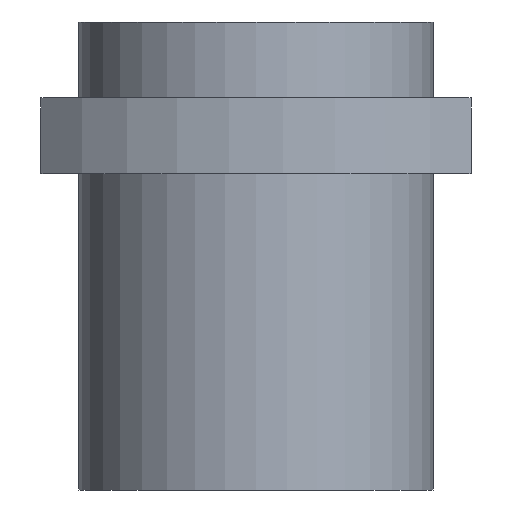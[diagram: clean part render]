
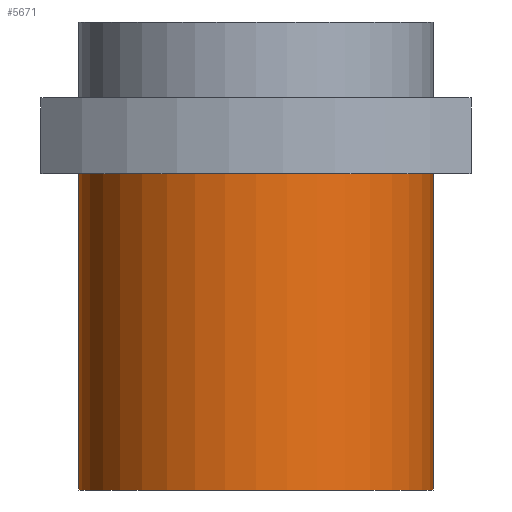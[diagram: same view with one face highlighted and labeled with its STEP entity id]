
A CAD part, left-side view. The second image highlights one B-rep face of the part: STEP entity #5671.
In plain terms, the highlighted cylindrical face has radius 14 mm (diameter 28 mm), a full revolution.
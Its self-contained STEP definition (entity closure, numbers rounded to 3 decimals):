
#83=CYLINDRICAL_SURFACE('',#6042,14.);
#113=CIRCLE('',#6029,14.);
#122=CIRCLE('',#6043,14.);
#1735=ORIENTED_EDGE('',*,*,#3367,.T.);
#1736=ORIENTED_EDGE('',*,*,#3356,.T.);
#3356=EDGE_CURVE('',#4172,#4172,#113,.F.);
#3367=EDGE_CURVE('',#4181,#4181,#122,.T.);
#4172=VERTEX_POINT('',#8978);
#4181=VERTEX_POINT('',#9003);
#4647=EDGE_LOOP('',(#1735));
#4648=EDGE_LOOP('',(#1736));
#5057=FACE_BOUND('',#4647,.T.);
#5058=FACE_BOUND('',#4648,.T.);
#5671=ADVANCED_FACE('',(#5057,#5058),#83,.T.);
#6029=AXIS2_PLACEMENT_3D('',#8977,#6553,#6554);
#6042=AXIS2_PLACEMENT_3D('',#9001,#6581,#6582);
#6043=AXIS2_PLACEMENT_3D('',#9002,#6583,#6584);
#6553=DIRECTION('',(0.,0.,1.));
#6554=DIRECTION('',(0.,1.,0.));
#6581=DIRECTION('',(0.,0.,1.));
#6582=DIRECTION('',(0.,1.,0.));
#6583=DIRECTION('',(0.,0.,1.));
#6584=DIRECTION('',(0.,1.,0.));
#8977=CARTESIAN_POINT('',(0.,0.,-6.));
#8978=CARTESIAN_POINT('',(0.,14.,-6.));
#9001=CARTESIAN_POINT('',(0.,0.,-31.));
#9002=CARTESIAN_POINT('',(0.,0.,-31.));
#9003=CARTESIAN_POINT('',(0.,14.,-31.));
